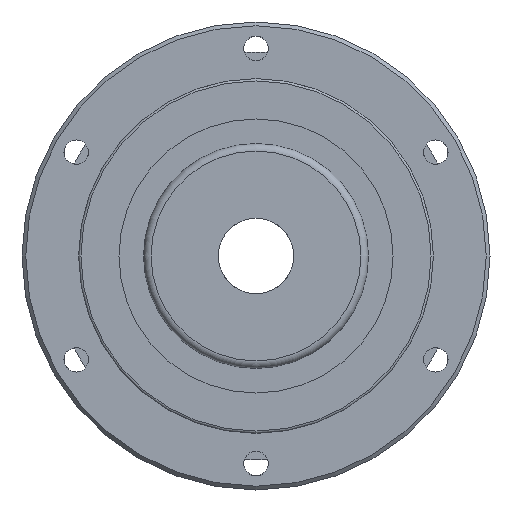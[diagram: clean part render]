
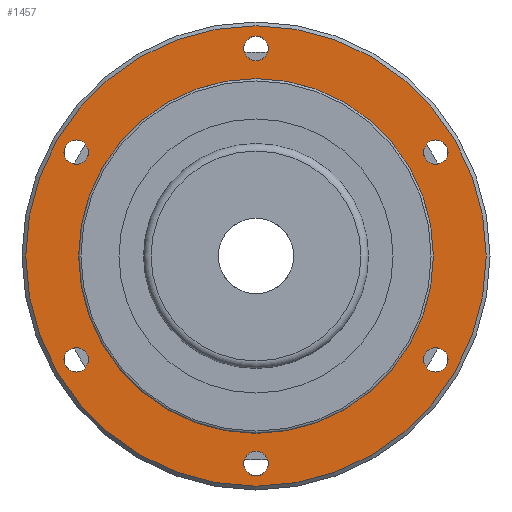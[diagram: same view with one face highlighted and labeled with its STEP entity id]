
A CAD part, left-side view. The second image highlights one B-rep face of the part: STEP entity #1457.
In plain terms, the highlighted planar face has unit normal (-1, 0, 0).
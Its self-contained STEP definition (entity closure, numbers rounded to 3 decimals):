
#47=PLANE('',#1588);
#257=ORIENTED_EDGE('',*,*,#477,.T.);
#258=ORIENTED_EDGE('',*,*,#478,.T.);
#259=ORIENTED_EDGE('',*,*,#479,.T.);
#260=ORIENTED_EDGE('',*,*,#480,.T.);
#261=ORIENTED_EDGE('',*,*,#481,.T.);
#262=ORIENTED_EDGE('',*,*,#482,.T.);
#263=ORIENTED_EDGE('',*,*,#483,.F.);
#264=ORIENTED_EDGE('',*,*,#476,.T.);
#476=EDGE_CURVE('',#583,#583,#673,.T.);
#477=EDGE_CURVE('',#584,#584,#674,.T.);
#478=EDGE_CURVE('',#585,#585,#675,.T.);
#479=EDGE_CURVE('',#586,#586,#676,.T.);
#480=EDGE_CURVE('',#587,#587,#677,.T.);
#481=EDGE_CURVE('',#588,#588,#678,.T.);
#482=EDGE_CURVE('',#589,#589,#679,.T.);
#483=EDGE_CURVE('',#590,#590,#680,.T.);
#583=VERTEX_POINT('',#2242);
#584=VERTEX_POINT('',#2245);
#585=VERTEX_POINT('',#2247);
#586=VERTEX_POINT('',#2249);
#587=VERTEX_POINT('',#2251);
#588=VERTEX_POINT('',#2253);
#589=VERTEX_POINT('',#2255);
#590=VERTEX_POINT('',#2257);
#673=CIRCLE('',#1587,30.5);
#674=CIRCLE('',#1589,1.621);
#675=CIRCLE('',#1590,1.621);
#676=CIRCLE('',#1591,1.621);
#677=CIRCLE('',#1592,1.621);
#678=CIRCLE('',#1593,1.621);
#679=CIRCLE('',#1594,1.621);
#680=CIRCLE('',#1595,23.5);
#748=EDGE_LOOP('',(#257));
#749=EDGE_LOOP('',(#258));
#750=EDGE_LOOP('',(#259));
#751=EDGE_LOOP('',(#260));
#752=EDGE_LOOP('',(#261));
#753=EDGE_LOOP('',(#262));
#754=EDGE_LOOP('',(#263));
#755=EDGE_LOOP('',(#264));
#863=FACE_BOUND('',#748,.T.);
#864=FACE_BOUND('',#749,.T.);
#865=FACE_BOUND('',#750,.T.);
#866=FACE_BOUND('',#751,.T.);
#867=FACE_BOUND('',#752,.T.);
#868=FACE_BOUND('',#753,.T.);
#869=FACE_BOUND('',#754,.T.);
#870=FACE_BOUND('',#755,.T.);
#1457=ADVANCED_FACE('',(#863,#864,#865,#866,#867,#868,#869,#870),#47,.F.);
#1587=AXIS2_PLACEMENT_3D('',#2241,#1834,#1835);
#1588=AXIS2_PLACEMENT_3D('',#2243,#1836,#1837);
#1589=AXIS2_PLACEMENT_3D('',#2244,#1838,#1839);
#1590=AXIS2_PLACEMENT_3D('',#2246,#1840,#1841);
#1591=AXIS2_PLACEMENT_3D('',#2248,#1842,#1843);
#1592=AXIS2_PLACEMENT_3D('',#2250,#1844,#1845);
#1593=AXIS2_PLACEMENT_3D('',#2252,#1846,#1847);
#1594=AXIS2_PLACEMENT_3D('',#2254,#1848,#1849);
#1595=AXIS2_PLACEMENT_3D('',#2256,#1850,#1851);
#1834=DIRECTION('',(-1.,0.,0.));
#1835=DIRECTION('',(0.,0.,1.));
#1836=DIRECTION('',(1.,0.,0.));
#1837=DIRECTION('',(0.,0.,-1.));
#1838=DIRECTION('',(1.,0.,0.));
#1839=DIRECTION('',(0.,0.,1.));
#1840=DIRECTION('',(1.,0.,0.));
#1841=DIRECTION('',(0.,0.,1.));
#1842=DIRECTION('',(1.,0.,0.));
#1843=DIRECTION('',(0.,0.,1.));
#1844=DIRECTION('',(1.,0.,0.));
#1845=DIRECTION('',(0.,0.,1.));
#1846=DIRECTION('',(1.,0.,0.));
#1847=DIRECTION('',(0.,0.,1.));
#1848=DIRECTION('',(1.,0.,0.));
#1849=DIRECTION('',(0.,0.,1.));
#1850=DIRECTION('',(-1.,0.,0.));
#1851=DIRECTION('',(0.,0.,1.));
#2241=CARTESIAN_POINT('',(7.8,0.,0.));
#2242=CARTESIAN_POINT('',(7.8,0.,30.5));
#2243=CARTESIAN_POINT('',(7.8,0.,23.5));
#2244=CARTESIAN_POINT('',(7.8,23.816,13.75));
#2245=CARTESIAN_POINT('',(7.8,23.816,15.371));
#2246=CARTESIAN_POINT('',(7.8,23.816,-13.75));
#2247=CARTESIAN_POINT('',(7.8,23.816,-12.129));
#2248=CARTESIAN_POINT('',(7.8,0.,-27.5));
#2249=CARTESIAN_POINT('',(7.8,0.,-25.879));
#2250=CARTESIAN_POINT('',(7.8,-23.816,-13.75));
#2251=CARTESIAN_POINT('',(7.8,-23.816,-12.129));
#2252=CARTESIAN_POINT('',(7.8,-23.816,13.75));
#2253=CARTESIAN_POINT('',(7.8,-23.816,15.371));
#2254=CARTESIAN_POINT('',(7.8,0.,27.5));
#2255=CARTESIAN_POINT('',(7.8,0.,29.121));
#2256=CARTESIAN_POINT('',(7.8,0.,0.));
#2257=CARTESIAN_POINT('',(7.8,0.,23.5));
